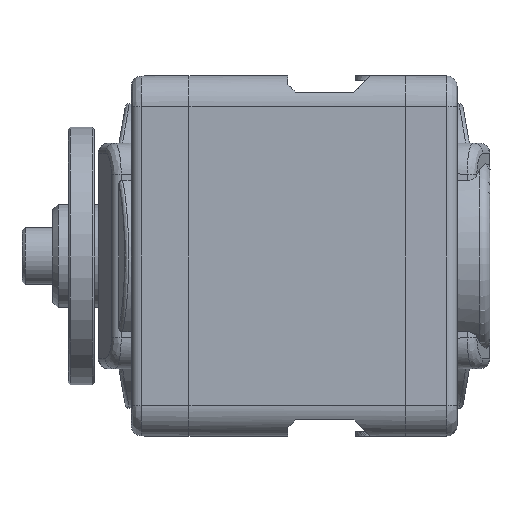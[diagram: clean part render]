
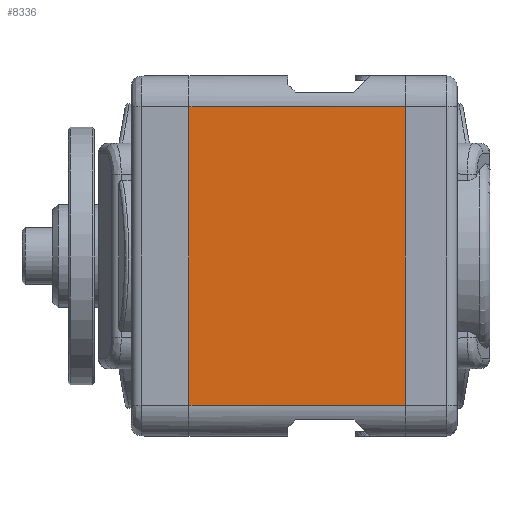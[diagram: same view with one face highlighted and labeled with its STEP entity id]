
A CAD part, left-side view. The second image highlights one B-rep face of the part: STEP entity #8336.
In plain terms, the highlighted planar face has unit normal (-1, 0, 0).
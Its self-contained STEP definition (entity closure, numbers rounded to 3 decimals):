
#2241=DIRECTION('',(0.,0.,1.));
#2242=VECTOR('',#2241,29.);
#2243=CARTESIAN_POINT('',(-13.,0.,-14.5));
#2244=LINE('',#2243,#2242);
#2249=DIRECTION('',(0.,-1.,0.));
#2250=VECTOR('',#2249,21.);
#2251=CARTESIAN_POINT('',(-13.,0.,14.5));
#2252=LINE('',#2251,#2250);
#2253=DIRECTION('',(0.,0.,1.));
#2254=VECTOR('',#2253,29.);
#2255=CARTESIAN_POINT('',(-13.,-21.,-14.5));
#2256=LINE('',#2255,#2254);
#2257=DIRECTION('',(0.,-1.,0.));
#2258=VECTOR('',#2257,21.);
#2259=CARTESIAN_POINT('',(-13.,0.,-14.5));
#2260=LINE('',#2259,#2258);
#4429=CARTESIAN_POINT('',(-13.,0.,14.5));
#4430=CARTESIAN_POINT('',(-13.,-21.,14.5));
#4431=VERTEX_POINT('',#4429);
#4432=VERTEX_POINT('',#4430);
#4433=CARTESIAN_POINT('',(-13.,0.,-14.5));
#4434=CARTESIAN_POINT('',(-13.,-21.,-14.5));
#4435=VERTEX_POINT('',#4433);
#4436=VERTEX_POINT('',#4434);
#8324=CARTESIAN_POINT('',(-13.,-29.2,-17.5));
#8325=DIRECTION('',(-1.,0.,0.));
#8326=DIRECTION('',(0.,0.,1.));
#8327=AXIS2_PLACEMENT_3D('',#8324,#8325,#8326);
#8328=PLANE('',#8327);
#8329=ORIENTED_EDGE('',*,*,#6917,.T.);
#8331=ORIENTED_EDGE('',*,*,#8330,.F.);
#8332=ORIENTED_EDGE('',*,*,#8086,.F.);
#8333=ORIENTED_EDGE('',*,*,#8318,.T.);
#8334=EDGE_LOOP('',(#8329,#8331,#8332,#8333));
#8335=FACE_OUTER_BOUND('',#8334,.F.);
#8336=ADVANCED_FACE('',(#8335),#8328,.T.);
#6917=EDGE_CURVE('',#4431,#4432,#2252,.T.);
#8086=EDGE_CURVE('',#4435,#4436,#2260,.T.);
#8318=EDGE_CURVE('',#4435,#4431,#2244,.T.);
#8330=EDGE_CURVE('',#4436,#4432,#2256,.T.);
